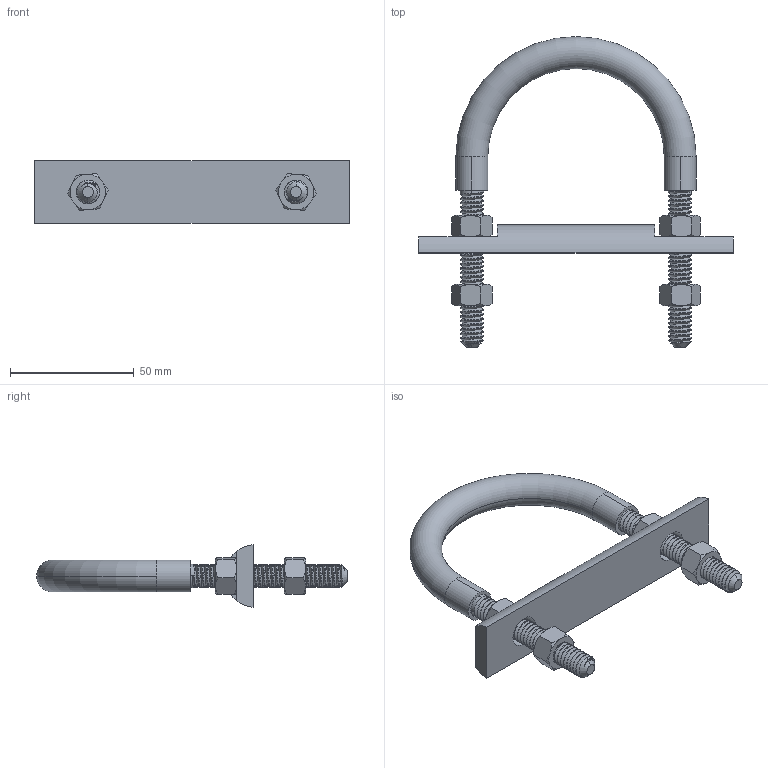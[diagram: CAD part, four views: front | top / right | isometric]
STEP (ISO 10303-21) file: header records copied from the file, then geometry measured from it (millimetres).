
FILE_DESCRIPTION (( 'STEP AP214' ), '1' );
FILE_NAME ('NUB1464.STEP', '2022-04-04T16:49:13', ( '' ), ( '' ), 'SwSTEP 2.0', 'SolidWorks 2021', '' );
FILE_SCHEMA (( 'AUTOMOTIVE_DESIGN' ));
Length unit declared in the file: inch
Products named in the file (4): UBT0991_UBT9-2-0.375-16 XL [NUB1464]; ROD0638_IR09-2 [NUB1464]; FAS0045; NUB1464
Assembly tree (6 placements, depth 2):
  NUB1464
    FAS0045  x4
    UBT0991_UBT9-2-0.375-16 XL [NUB1464]
    ROD0638_IR09-2 [NUB1464]
Bounding box: 127 x 125.51 x 25.27 mm (x, y, z)
Volume: 52930 mm3; surface area: 34068.6 mm2
Topology: 7 solids, 7 shells, 292 faces, 762 edges, 484 vertices
Faces by surface type: cylinder 167, cone 70, plane 45, torus 6, bspline 4
Entity records: 16867 total; most frequent: CARTESIAN_POINT 11961, ORIENTED_EDGE 1164, DIRECTION 774, EDGE_CURVE 582, VERTEX_POINT 382, AXIS2_PLACEMENT_3D 293, EDGE_LOOP 216, FACE_OUTER_BOUND 208
